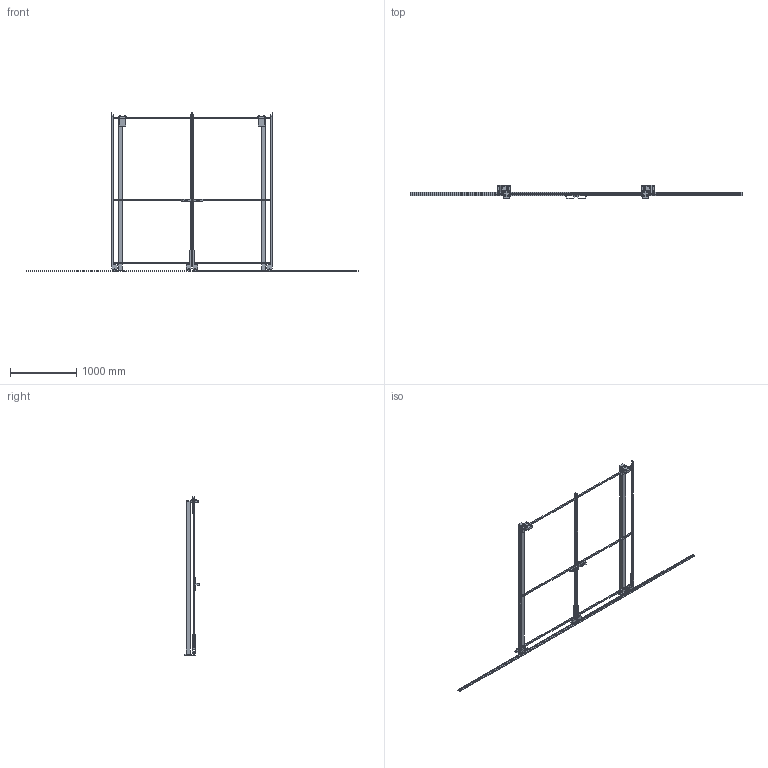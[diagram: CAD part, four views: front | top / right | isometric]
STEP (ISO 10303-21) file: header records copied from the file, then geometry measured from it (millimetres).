
FILE_DESCRIPTION(/* description */ (''),/* implementation_level */ '2;1');
FILE_NAME(/* name */ 'C:\SafeGuarding\ELABORATI\Drawing4_2025-05-14-13-29-15.stp',/* time_stamp */ '2025-05-14T13:29:16+02:00',/* author */ ('admin'),/* organization */ (''),/* preprocessor_version */ 'ST-DEVELOPER v18.1',/* originating_system */ 'AutoCAD Mechanical',/* authorisation */ '');
FILE_SCHEMA (('AUTOMOTIVE_DESIGN { 1 0 10303 214 3 1 1 }'));
Length unit declared in the file: millimetre
Products named in the file (3): Product; R_VFPA.REPE20.12002200; P_VFMA.V260SDU.2320
Assembly tree (4 placements, depth 2):
  Product
    R_VFPA.REPE20.12002200  x2
    P_VFMA.V260SDU.2320  x2
Bounding box: 5000 x 211.4 x 2390 mm (x, y, z)
Volume: 26006517.8 mm3; surface area: 3813671.8 mm2
Topology: 52 solids, 74 shells, 504 faces, 1574 edges, 1492 vertices
Faces by surface type: plane 440, cylinder 56, cone 8
Full cylindrical faces by diameter (mm): 9 x8, 11 x8, 13 x8, 14 x4, 18 x8, 30 x4, 36 x8, 58 x8
Entity records: 15293 total; most frequent: CARTESIAN_POINT 3229, DIRECTION 2308, ORIENTED_EDGE 2224, EDGE_CURVE 1210, LINE 998, VECTOR 998, VERTEX_POINT 888, AXIS2_PLACEMENT_3D 655
